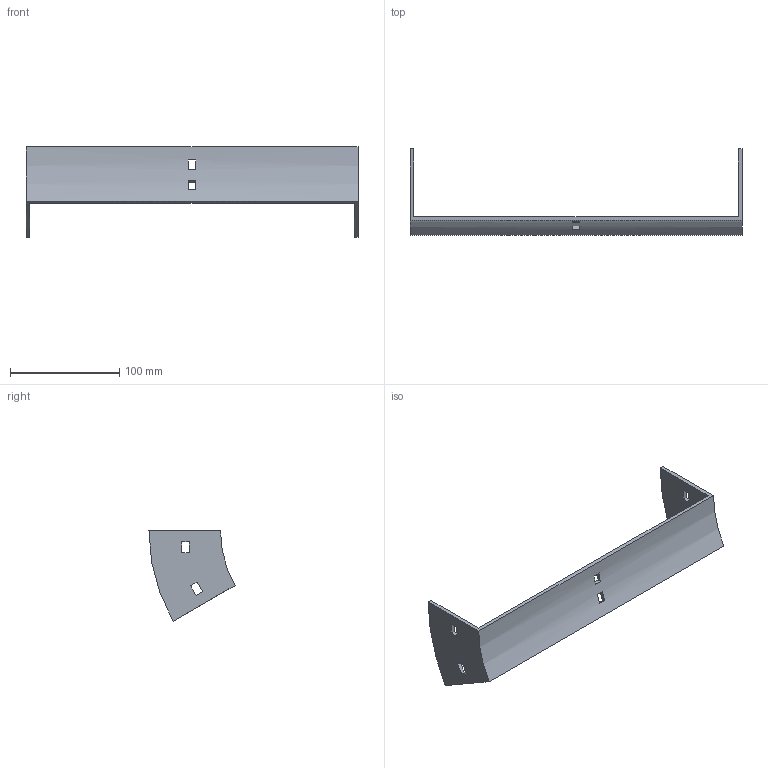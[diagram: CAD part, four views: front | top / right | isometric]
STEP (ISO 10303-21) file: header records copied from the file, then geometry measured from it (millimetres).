
FILE_DESCRIPTION (( 'STEP AP214' ), '1' );
FILE_NAME ('35B1H300.step', '2025-02-21T09:26:02', ( '' ), ( '' ), 'SwSTEP 2.0', 'SolidWorks 2023', '' );
FILE_SCHEMA (( 'AUTOMOTIVE_DESIGN' ));
Length unit declared in the file: millimetre
Products named in the file (1): 35B1H300
Bounding box: 304 x 78.9 x 82.75 mm (x, y, z)
Volume: 85854.7 mm3; surface area: 53352.1 mm2
Topology: 1 solids, 1 shells, 34 faces, 96 edges, 64 vertices
Faces by surface type: plane 30, cylinder 4
Entity records: 1143 total; most frequent: CARTESIAN_POINT 195, ORIENTED_EDGE 192, DIRECTION 182, EDGE_CURVE 96, LINE 80, VECTOR 80, VERTEX_POINT 64, AXIS2_PLACEMENT_3D 51
